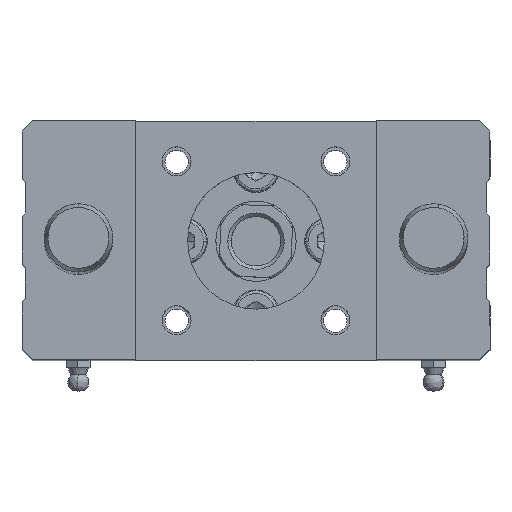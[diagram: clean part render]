
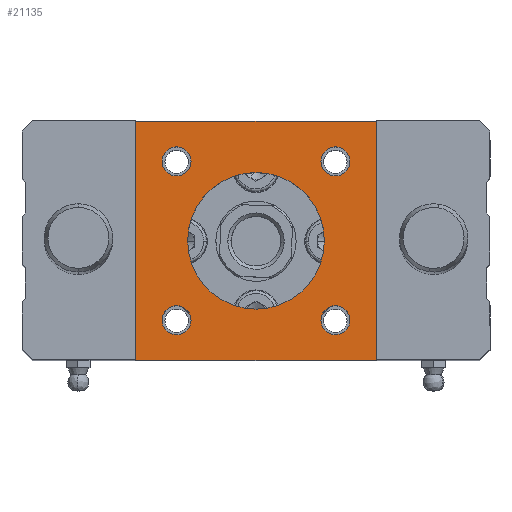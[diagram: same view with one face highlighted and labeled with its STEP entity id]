
A CAD part, top view. The second image highlights one B-rep face of the part: STEP entity #21135.
In plain terms, the highlighted planar face has unit normal (0, 0, 1).
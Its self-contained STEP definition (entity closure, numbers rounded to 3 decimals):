
#205 = DIRECTION ( 'NONE',  ( -1., 0., 0. ) ) ;
#289 = DIRECTION ( 'NONE',  ( 0., 0., 1. ) ) ;
#375 = VERTEX_POINT ( 'NONE', #19826 ) ;
#905 = CIRCLE ( 'NONE', #1970, 4.25 ) ;
#1139 = VERTEX_POINT ( 'NONE', #20283 ) ;
#1157 = ORIENTED_EDGE ( 'NONE', *, *, #24421, .T. ) ;
#1417 = DIRECTION ( 'NONE',  ( -1., 0., 0. ) ) ;
#1725 = VERTEX_POINT ( 'NONE', #11307 ) ;
#1970 = AXIS2_PLACEMENT_3D ( 'NONE', #25096, #25184, #16955 ) ;
#2041 = LINE ( 'NONE', #17376, #16508 ) ;
#2137 = AXIS2_PLACEMENT_3D ( 'NONE', #14092, #13827, #13740 ) ;
#2288 = EDGE_CURVE ( 'NONE', #19638, #23121, #8975, .T. ) ;
#2666 = EDGE_LOOP ( 'NONE', ( #26734, #24096 ) ) ;
#3074 = ORIENTED_EDGE ( 'NONE', *, *, #20579, .F. ) ;
#3667 = DIRECTION ( 'NONE',  ( -1., 0., 0. ) ) ;
#4178 = DIRECTION ( 'NONE',  ( 0., 0., 1. ) ) ;
#4350 = VECTOR ( 'NONE', #24945, 1000. ) ;
#4542 = FACE_BOUND ( 'NONE', #4631, .T. ) ;
#4631 = EDGE_LOOP ( 'NONE', ( #5767, #22080 ) ) ;
#5210 = VERTEX_POINT ( 'NONE', #24741 ) ;
#5767 = ORIENTED_EDGE ( 'NONE', *, *, #7683, .F. ) ;
#6385 = CARTESIAN_POINT ( 'NONE',  ( -23.25, 23.25, 71. ) ) ;
#6435 = CARTESIAN_POINT ( 'NONE',  ( 20., 0., 71. ) ) ;
#6455 = FACE_OUTER_BOUND ( 'NONE', #9684, .T. ) ;
#6999 = CIRCLE ( 'NONE', #18854, 4.25 ) ;
#7028 = VECTOR ( 'NONE', #8512, 1000. ) ;
#7683 = EDGE_CURVE ( 'NONE', #25162, #25887, #11141, .T. ) ;
#7872 = CARTESIAN_POINT ( 'NONE',  ( 23.25, -23.25, 71. ) ) ;
#7874 = DIRECTION ( 'NONE',  ( 0., 0., 1. ) ) ;
#8040 = CARTESIAN_POINT ( 'NONE',  ( -20., 0., 71. ) ) ;
#8224 = CARTESIAN_POINT ( 'NONE',  ( -35.25, -35., 71. ) ) ;
#8243 = EDGE_CURVE ( 'NONE', #1139, #1725, #9801, .T. ) ;
#8305 = DIRECTION ( 'NONE',  ( -1., 0., 0. ) ) ;
#8512 = DIRECTION ( 'NONE',  ( 0., 1., 0. ) ) ;
#8711 = DIRECTION ( 'NONE',  ( 0., 0., 1. ) ) ;
#8957 = VERTEX_POINT ( 'NONE', #21440 ) ;
#8975 = CIRCLE ( 'NONE', #2137, 20. ) ;
#9073 = CARTESIAN_POINT ( 'NONE',  ( 19., -23.25, 71. ) ) ;
#9684 = EDGE_LOOP ( 'NONE', ( #1157, #25610, #17849, #17608 ) ) ;
#9801 = LINE ( 'NONE', #20980, #4350 ) ;
#10384 = AXIS2_PLACEMENT_3D ( 'NONE', #15173, #17863, #19496 ) ;
#10462 = DIRECTION ( 'NONE',  ( 1., 0., 0. ) ) ;
#10472 = VERTEX_POINT ( 'NONE', #8224 ) ;
#10703 = DIRECTION ( 'NONE',  ( -1., 0., 0. ) ) ;
#10728 = CARTESIAN_POINT ( 'NONE',  ( 35.25, -35., 71. ) ) ;
#10792 = CARTESIAN_POINT ( 'NONE',  ( 0., 0., 71. ) ) ;
#10806 = AXIS2_PLACEMENT_3D ( 'NONE', #22121, #7874, #11828 ) ;
#10884 = CARTESIAN_POINT ( 'NONE',  ( -23.25, -23.25, 71. ) ) ;
#11141 = CIRCLE ( 'NONE', #13967, 4.25 ) ;
#11307 = CARTESIAN_POINT ( 'NONE',  ( 35.25, 35., 71. ) ) ;
#11550 = DIRECTION ( 'NONE',  ( 0., 0., 1. ) ) ;
#11611 = AXIS2_PLACEMENT_3D ( 'NONE', #7872, #18063, #3667 ) ;
#11817 = EDGE_CURVE ( 'NONE', #17844, #375, #14003, .T. ) ;
#11828 = DIRECTION ( 'NONE',  ( -1., 0., 0. ) ) ;
#12280 = DIRECTION ( 'NONE',  ( 0., 0., -1. ) ) ;
#12409 = VERTEX_POINT ( 'NONE', #9073 ) ;
#12447 = CARTESIAN_POINT ( 'NONE',  ( -35.25, 35., 71. ) ) ;
#12705 = ORIENTED_EDGE ( 'NONE', *, *, #11817, .F. ) ;
#13331 = CARTESIAN_POINT ( 'NONE',  ( 35.25, -35., 71. ) ) ;
#13740 = DIRECTION ( 'NONE',  ( -1., 0., 0. ) ) ;
#13827 = DIRECTION ( 'NONE',  ( 0., 0., 1. ) ) ;
#13967 = AXIS2_PLACEMENT_3D ( 'NONE', #16337, #4178, #8305 ) ;
#14003 = CIRCLE ( 'NONE', #24414, 4.25 ) ;
#14092 = CARTESIAN_POINT ( 'NONE',  ( 0., 0., 71. ) ) ;
#14499 = DIRECTION ( 'NONE',  ( 0., 0., 1. ) ) ;
#14688 = VECTOR ( 'NONE', #10462, 1000. ) ;
#14733 = EDGE_CURVE ( 'NONE', #8957, #5210, #16069, .T. ) ;
#15173 = CARTESIAN_POINT ( 'NONE',  ( -23.25, 23.25, 71. ) ) ;
#15355 = CIRCLE ( 'NONE', #11611, 4.25 ) ;
#16069 = CIRCLE ( 'NONE', #21763, 4.25 ) ;
#16101 = ORIENTED_EDGE ( 'NONE', *, *, #20953, .F. ) ;
#16122 = FACE_BOUND ( 'NONE', #19288, .T. ) ;
#16337 = CARTESIAN_POINT ( 'NONE',  ( 23.25, 23.25, 71. ) ) ;
#16508 = VECTOR ( 'NONE', #17193, 1000. ) ;
#16847 = AXIS2_PLACEMENT_3D ( 'NONE', #12447, #12280, #18526 ) ;
#16955 = DIRECTION ( 'NONE',  ( -1., 0., 0. ) ) ;
#17119 = CIRCLE ( 'NONE', #10806, 4.25 ) ;
#17193 = DIRECTION ( 'NONE',  ( 0., 1., 0. ) ) ;
#17355 = EDGE_CURVE ( 'NONE', #10472, #1139, #22500, .T. ) ;
#17376 = CARTESIAN_POINT ( 'NONE',  ( 35.25, 35., 71. ) ) ;
#17593 = EDGE_CURVE ( 'NONE', #25887, #25162, #6999, .T. ) ;
#17608 = ORIENTED_EDGE ( 'NONE', *, *, #25838, .T. ) ;
#17844 = VERTEX_POINT ( 'NONE', #18591 ) ;
#17849 = ORIENTED_EDGE ( 'NONE', *, *, #17355, .F. ) ;
#17863 = DIRECTION ( 'NONE',  ( 0., 0., 1. ) ) ;
#17953 = EDGE_CURVE ( 'NONE', #25630, #12409, #905, .T. ) ;
#18063 = DIRECTION ( 'NONE',  ( 0., 0., 1. ) ) ;
#18325 = EDGE_LOOP ( 'NONE', ( #16101, #12705 ) ) ;
#18434 = PLANE ( 'NONE',  #16847 ) ;
#18526 = DIRECTION ( 'NONE',  ( -1., 0., 0. ) ) ;
#18591 = CARTESIAN_POINT ( 'NONE',  ( -19., -23.25, 71. ) ) ;
#18826 = CARTESIAN_POINT ( 'NONE',  ( 19., 23.25, 71. ) ) ;
#18854 = AXIS2_PLACEMENT_3D ( 'NONE', #23936, #11550, #1417 ) ;
#19288 = EDGE_LOOP ( 'NONE', ( #22735, #25750 ) ) ;
#19496 = DIRECTION ( 'NONE',  ( -1., 0., 0. ) ) ;
#19515 = LINE ( 'NONE', #10728, #14688 ) ;
#19638 = VERTEX_POINT ( 'NONE', #8040 ) ;
#19826 = CARTESIAN_POINT ( 'NONE',  ( -27.5, -23.25, 71. ) ) ;
#20283 = CARTESIAN_POINT ( 'NONE',  ( -35.25, 35., 71. ) ) ;
#20327 = FACE_BOUND ( 'NONE', #2666, .T. ) ;
#20512 = CARTESIAN_POINT ( 'NONE',  ( 27.5, -23.25, 71. ) ) ;
#20579 = EDGE_CURVE ( 'NONE', #23121, #19638, #24900, .T. ) ;
#20890 = CARTESIAN_POINT ( 'NONE',  ( -35.25, 35., 71. ) ) ;
#20953 = EDGE_CURVE ( 'NONE', #375, #17844, #17119, .T. ) ;
#20980 = CARTESIAN_POINT ( 'NONE',  ( -35.25, 35., 71. ) ) ;
#21135 = ADVANCED_FACE ( 'NONE', ( #24872, #4542, #24527, #16122, #20327, #6455 ), #18434, .F. ) ;
#21440 = CARTESIAN_POINT ( 'NONE',  ( -19., 23.25, 71. ) ) ;
#21763 = AXIS2_PLACEMENT_3D ( 'NONE', #6385, #14499, #25075 ) ;
#22080 = ORIENTED_EDGE ( 'NONE', *, *, #17593, .F. ) ;
#22121 = CARTESIAN_POINT ( 'NONE',  ( -23.25, -23.25, 71. ) ) ;
#22296 = CIRCLE ( 'NONE', #10384, 4.25 ) ;
#22500 = LINE ( 'NONE', #20890, #7028 ) ;
#22714 = ORIENTED_EDGE ( 'NONE', *, *, #2288, .F. ) ;
#22735 = ORIENTED_EDGE ( 'NONE', *, *, #25501, .F. ) ;
#23121 = VERTEX_POINT ( 'NONE', #6435 ) ;
#23936 = CARTESIAN_POINT ( 'NONE',  ( 23.25, 23.25, 71. ) ) ;
#24096 = ORIENTED_EDGE ( 'NONE', *, *, #14733, .F. ) ;
#24414 = AXIS2_PLACEMENT_3D ( 'NONE', #10884, #289, #10703 ) ;
#24421 = EDGE_CURVE ( 'NONE', #26084, #1725, #2041, .T. ) ;
#24527 = FACE_BOUND ( 'NONE', #18325, .T. ) ;
#24614 = EDGE_CURVE ( 'NONE', #5210, #8957, #22296, .T. ) ;
#24741 = CARTESIAN_POINT ( 'NONE',  ( -27.5, 23.25, 71. ) ) ;
#24872 = FACE_BOUND ( 'NONE', #26199, .T. ) ;
#24900 = CIRCLE ( 'NONE', #25167, 20. ) ;
#24945 = DIRECTION ( 'NONE',  ( 1., 0., 0. ) ) ;
#25075 = DIRECTION ( 'NONE',  ( -1., 0., 0. ) ) ;
#25096 = CARTESIAN_POINT ( 'NONE',  ( 23.25, -23.25, 71. ) ) ;
#25162 = VERTEX_POINT ( 'NONE', #18826 ) ;
#25167 = AXIS2_PLACEMENT_3D ( 'NONE', #10792, #8711, #205 ) ;
#25184 = DIRECTION ( 'NONE',  ( 0., 0., 1. ) ) ;
#25267 = CARTESIAN_POINT ( 'NONE',  ( 27.5, 23.25, 71. ) ) ;
#25501 = EDGE_CURVE ( 'NONE', #12409, #25630, #15355, .T. ) ;
#25610 = ORIENTED_EDGE ( 'NONE', *, *, #8243, .F. ) ;
#25630 = VERTEX_POINT ( 'NONE', #20512 ) ;
#25750 = ORIENTED_EDGE ( 'NONE', *, *, #17953, .F. ) ;
#25838 = EDGE_CURVE ( 'NONE', #10472, #26084, #19515, .T. ) ;
#25887 = VERTEX_POINT ( 'NONE', #25267 ) ;
#26084 = VERTEX_POINT ( 'NONE', #13331 ) ;
#26199 = EDGE_LOOP ( 'NONE', ( #22714, #3074 ) ) ;
#26734 = ORIENTED_EDGE ( 'NONE', *, *, #24614, .F. ) ;
